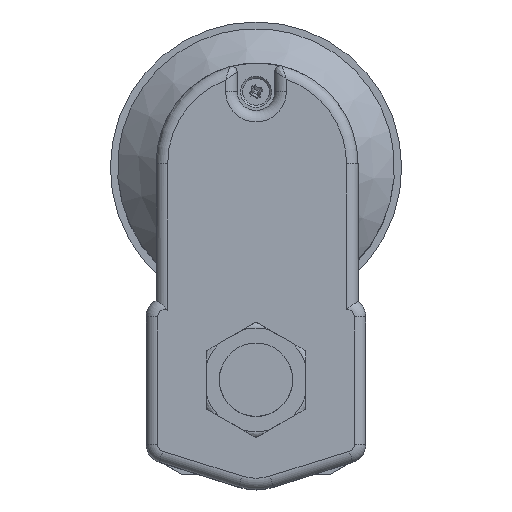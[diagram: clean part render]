
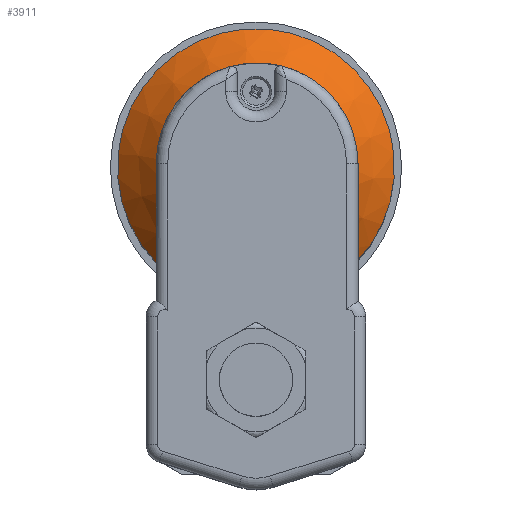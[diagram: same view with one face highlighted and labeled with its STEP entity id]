
A CAD part, top view. The second image highlights one B-rep face of the part: STEP entity #3911.
In plain terms, the highlighted conical face has half-angle 45 degrees and reference radius 48 mm.
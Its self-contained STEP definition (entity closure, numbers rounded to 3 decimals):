
#15 = CIRCLE ( 'NONE', #7835, 48. ) ;
#17 = CIRCLE ( 'NONE', #7838, 34. ) ;
#1158 = VERTEX_POINT ( 'NONE', #1159 ) ;
#1159 = CARTESIAN_POINT ( 'NONE',  ( 0., 39.9, 67.5 ) ) ;
#3675 = VERTEX_POINT ( 'NONE', #8490 ) ;
#3815 = VERTEX_POINT ( 'NONE', #8630 ) ;
#3911 = ADVANCED_FACE ( 'NONE', ( #4281, #4278 ), #4279, .T. ) ;
#4278 = FACE_OUTER_BOUND ( 'NONE', #4650, .T. ) ;
#4279 = CONICAL_SURFACE ( 'NONE', #7523, 48., 0.785 ) ;
#4281 = FACE_BOUND ( 'NONE', #4617, .T. ) ;
#4383 = ORIENTED_EDGE ( 'NONE', *, *, #7115, .F. ) ;
#4384 = ORIENTED_EDGE ( 'NONE', *, *, #7114, .T. ) ;
#4385 = ORIENTED_EDGE ( 'NONE', *, *, #7169, .T. ) ;
#4617 = EDGE_LOOP ( 'NONE', ( #4383 ) ) ;
#4650 = EDGE_LOOP ( 'NONE', ( #4384, #4385 ) ) ;
#4920 = CARTESIAN_POINT ( 'NONE',  ( 0., 73.9, 53.5 ) ) ;
#4921 = DIRECTION ( 'NONE',  ( 0., 0., 1. ) ) ;
#4922 = DIRECTION ( 'NONE',  ( 0., -1., 0. ) ) ;
#4923 = CARTESIAN_POINT ( 'NONE',  ( 0., 73.9, 67.5 ) ) ;
#4924 = DIRECTION ( 'NONE',  ( 0., 0., 1. ) ) ;
#4925 = DIRECTION ( 'NONE',  ( 0., -1., 0. ) ) ;
#5083 = CARTESIAN_POINT ( 'NONE',  ( -27.908, 34.847, 53.5 ) ) ;
#5086 = CARTESIAN_POINT ( 'NONE',  ( -26.826, 34.768, 54.065 ) ) ;
#5087 = CARTESIAN_POINT ( 'NONE',  ( -25.733, 34.688, 54.609 ) ) ;
#5088 = CARTESIAN_POINT ( 'NONE',  ( -23.531, 34.53, 55.644 ) ) ;
#5089 = CARTESIAN_POINT ( 'NONE',  ( -22.421, 34.452, 56.137 ) ) ;
#5090 = CARTESIAN_POINT ( 'NONE',  ( -19.06, 34.223, 57.53 ) ) ;
#5091 = CARTESIAN_POINT ( 'NONE',  ( -16.779, 34.077, 58.344 ) ) ;
#5092 = CARTESIAN_POINT ( 'NONE',  ( -13.28, 33.887, 59.356 ) ) ;
#5093 = CARTESIAN_POINT ( 'NONE',  ( -12.101, 33.829, 59.657 ) ) ;
#5094 = CARTESIAN_POINT ( 'NONE',  ( -9.715, 33.725, 60.183 ) ) ;
#5095 = CARTESIAN_POINT ( 'NONE',  ( -8.505, 33.679, 60.407 ) ) ;
#5096 = CARTESIAN_POINT ( 'NONE',  ( -6.081, 33.605, 60.767 ) ) ;
#5097 = CARTESIAN_POINT ( 'NONE',  ( -4.863, 33.577, 60.903 ) ) ;
#5098 = CARTESIAN_POINT ( 'NONE',  ( -2.415, 33.538, 61.085 ) ) ;
#5099 = CARTESIAN_POINT ( 'NONE',  ( -1.188, 33.529, 61.13 ) ) ;
#5100 = CARTESIAN_POINT ( 'NONE',  ( 2.477, 33.529, 61.127 ) ) ;
#5101 = CARTESIAN_POINT ( 'NONE',  ( 4.908, 33.569, 60.942 ) ) ;
#5102 = CARTESIAN_POINT ( 'NONE',  ( 8.537, 33.68, 60.402 ) ) ;
#5103 = CARTESIAN_POINT ( 'NONE',  ( 9.746, 33.726, 60.177 ) ) ;
#5104 = CARTESIAN_POINT ( 'NONE',  ( 12.13, 33.83, 59.65 ) ) ;
#5105 = CARTESIAN_POINT ( 'NONE',  ( 13.307, 33.888, 59.348 ) ) ;
#5106 = CARTESIAN_POINT ( 'NONE',  ( 16.801, 34.078, 58.337 ) ) ;
#5107 = CARTESIAN_POINT ( 'NONE',  ( 19.078, 34.224, 57.523 ) ) ;
#5108 = CARTESIAN_POINT ( 'NONE',  ( 23.55, 34.529, 55.668 ) ) ;
#5109 = CARTESIAN_POINT ( 'NONE',  ( 25.745, 34.688, 54.629 ) ) ;
#5110 = CARTESIAN_POINT ( 'NONE',  ( 27.908, 34.847, 53.5 ) ) ;
#6363 = B_SPLINE_CURVE_WITH_KNOTS ( 'NONE', 3,
 ( #5083, #5086, #5087, #5088, #5089, #5090, #5091, #5092, #5093, #5094, #5095, #5096, #5097, #5098, #5099, #5100, #5101, #5102, #5103, #5104, #5105, #5106, #5107, #5108, #5109, #5110 ),
 .UNSPECIFIED., .F., .F.,
 ( 4, 2, 2, 2, 2, 2, 2, 2, 2, 2, 2, 2, 4 ),
 ( 0., 0.004, 0.007, 0.015, 0.018, 0.022, 0.026, 0.029, 0.037, 0.04, 0.044, 0.051, 0.059 ),
 .UNSPECIFIED. ) ;
#7114 = EDGE_CURVE ( 'NONE', #3815, #3675, #15, .T. ) ;
#7115 = EDGE_CURVE ( 'NONE', #1158, #1158, #17, .T. ) ;
#7169 = EDGE_CURVE ( 'NONE', #3675, #3815, #6363, .T. ) ;
#7523 = AXIS2_PLACEMENT_3D ( 'NONE', #9076, #9077, #9065 ) ;
#7835 = AXIS2_PLACEMENT_3D ( 'NONE', #4920, #4921, #4922 ) ;
#7838 = AXIS2_PLACEMENT_3D ( 'NONE', #4923, #4924, #4925 ) ;
#8490 = CARTESIAN_POINT ( 'NONE',  ( -27.908, 34.847, 53.5 ) ) ;
#8630 = CARTESIAN_POINT ( 'NONE',  ( 27.908, 34.847, 53.5 ) ) ;
#9065 = DIRECTION ( 'NONE',  ( 0., 1., 0. ) ) ;
#9076 = CARTESIAN_POINT ( 'NONE',  ( 0., 73.9, 53.5 ) ) ;
#9077 = DIRECTION ( 'NONE',  ( 0., 0., -1. ) ) ;
